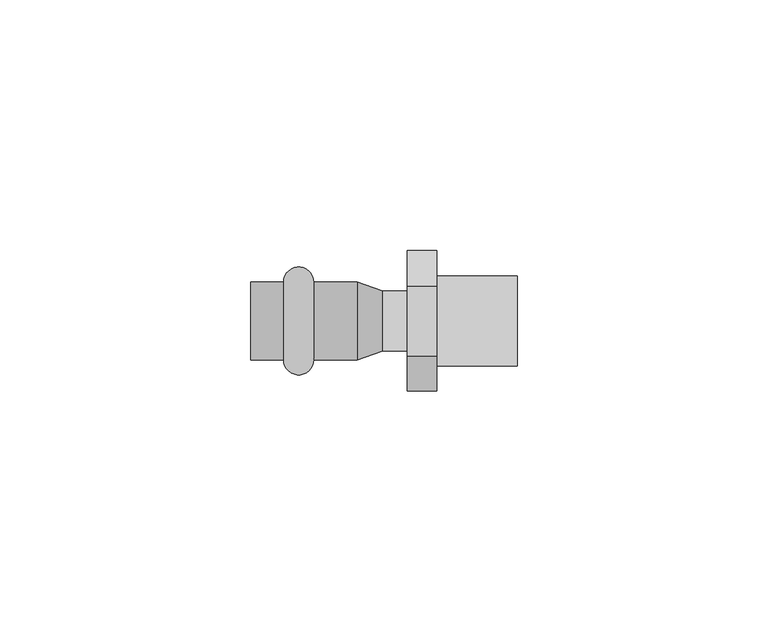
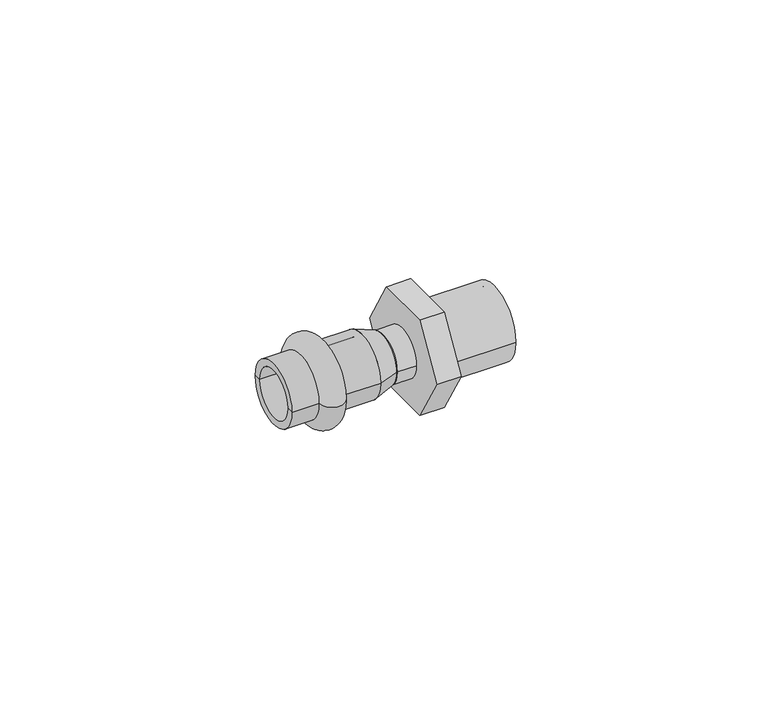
"""IFC4 building model written with IfcOpenShell, lengths in millimetres: pipe fitting geometry, VALTEC_VTi.901.I_Соединитель прямой с переходом на наружную резьбу_Нержавеющая сталь : VTi.901.I."""

from ifc_helpers import new_model, si_unit, point, frame, origin, origin_2d, place, context, project, spatial, polyline, circle_curve, ellipse_curve, trimmed, segment, composite_curve, outline, extrude, source, transform, mapped, element, save
from ifc_brep_helpers import plane_surface, cylinder_surface, revolved_surface, advanced_brep


def pipe_fitting_4a7d6b31(model_context):
    return source(origin(), model_context, "Body", "SolidModel", [
        advanced_brep(
        [(-27.55, -7.75, 0.0), (-27.55, 7.75, 0.0), (-21.55, 7.75, 0.0), (-21.55, -7.75, 0.0), (-34.05, -7.75, 0.0), (-34.05, 7.75, 0.0), (-34.05, -6.0, 0.0), (-34.05, 6.0, 0.0), (-12.85, -6.0, 0.0), (-12.85, 6.0, 0.0), (-12.85, -7.75, 0.0), (-12.85, 7.75, 0.0)],
        [
            (0, 1, circle_curve(frame((-27.55, 0.0, 0.0), z_axis=(1.0, 0.0, 0.0), x_axis=(0.0, 1.0, 0.0)), 7.75)),
            (1, 2, circle_curve(frame((-24.55, 7.75, 0.0), z_axis=(0.0, 0.0, -1.0), x_axis=(1.0, 0.0, 0.0)), 3.0)),
            (2, 3, circle_curve(frame((-21.55, 0.0, 0.0), z_axis=(-1.0, 0.0, 0.0), x_axis=(0.0, 1.0, 0.0)), 7.75)),
            (3, 0, circle_curve(frame((-24.55, -7.75, 0.0), z_axis=(0.0, 0.0, -1.0), x_axis=(1.0, 0.0, 0.0)), 3.0)),
            (1, 0, circle_curve(frame((-27.55, 0.0, 0.0), z_axis=(1.0, 0.0, 0.0), x_axis=(0.0, 1.0, 0.0)), 7.75)),
            (3, 2, circle_curve(frame((-21.55, 0.0, 0.0), z_axis=(-1.0, 0.0, 0.0), x_axis=(0.0, 1.0, 0.0)), 7.75)),
            (4, 5, circle_curve(frame((-34.05, 0.0, 0.0), z_axis=(1.0, 0.0, 0.0), x_axis=(0.0, 1.0, 0.0)), 7.75)),
            (5, 1),
            (0, 4),
            (5, 4, circle_curve(frame((-34.05, 0.0, 0.0), z_axis=(1.0, 0.0, 0.0), x_axis=(0.0, 1.0, 0.0)), 7.75)),
            (6, 7, circle_curve(frame((-34.05, 0.0, 0.0), z_axis=(1.0, 0.0, 0.0), x_axis=(0.0, 1.0, 0.0)), 6.0)),
            (7, 5),
            (4, 6),
            (7, 6, circle_curve(frame((-34.05, 0.0, 0.0), z_axis=(1.0, 0.0, 0.0), x_axis=(0.0, 1.0, 0.0)), 6.0)),
            (8, 9, circle_curve(frame((-12.85, 0.0, 0.0), z_axis=(1.0, 0.0, 0.0), x_axis=(0.0, 1.0, 0.0)), 6.0)),
            (9, 7),
            (6, 8),
            (9, 8, circle_curve(frame((-12.85, 0.0, 0.0), z_axis=(1.0, 0.0, 0.0), x_axis=(0.0, 1.0, 0.0)), 6.0)),
            (10, 11, circle_curve(frame((-12.85, 0.0, 0.0), z_axis=(1.0, 0.0, 0.0), x_axis=(0.0, 1.0, 0.0)), 7.75)),
            (11, 9),
            (8, 10),
            (11, 10, circle_curve(frame((-12.85, 0.0, 0.0), z_axis=(1.0, 0.0, 0.0), x_axis=(0.0, 1.0, 0.0)), 7.75)),
            (2, 11),
            (10, 3),
        ],
        [
            revolved_surface(trimmed(ellipse_curve(frame((-24.55, 7.75, 0.0), z_axis=(0.0, 0.0, 1.0), x_axis=(1.0, 0.0, 0.0)), 3.0, 3.0), [point((-21.55, 7.75, 0.0))], [point((-27.55, 7.75, 0.0))], True, "CARTESIAN"), (-37.5864426, 0.0, 0.0), (-1.0, 0.0, 0.0)),
            cylinder_surface(frame((-37.5864426, 0.0, 0.0), z_axis=(-1.0, 0.0, 0.0), x_axis=(0.0, 1.0, 0.0)), 7.75),
            plane_surface(frame((-34.05, 0.0, 0.0), z_axis=(-1.0, 0.0, 0.0), x_axis=(0.0, 1.0, 0.0))),
            revolved_surface(polyline([(-34.05, 6.0, 0.0), (-12.850000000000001, 6.0, 0.0)]), (-37.5864426, 0.0, 0.0), (-1.0, 0.0, 0.0)),
            plane_surface(frame((-12.85, 0.0, 0.0), z_axis=(1.0, 0.0, 0.0), x_axis=(0.0, 1.0, 0.0))),
        ],
        [
            (0, [[1, 2, 3, 4]]),
            (0, [[5, -4, 6, -2]]),
            (1, [[7, 8, -1, 9]]),
            (1, [[10, -9, -5, -8]]),
            (2, [[11, 12, -7, 13]]),
            (2, [[14, -13, -10, -12]]),
            (3, [[15, 16, -11, 17]]),
            (3, [[18, -17, -14, -16]]),
            (4, [[19, 20, -15, 21]]),
            (4, [[22, -21, -18, -20]]),
            (1, [[-3, 23, -19, 24]]),
            (1, [[-6, -24, -22, -23]]),
        ],
    ),
        extrude(outline(polyline([(-13.989197, 0.0), (-6.9945985, 12.115), (6.9945985, 12.115), (13.989197, 0.0), (6.9945985, -12.115), (-6.9945985, -12.115), (-13.989197, 0.0)])), frame((-2.95, 0.0, 0.0), z_axis=(1.0, 0.0, 0.0), x_axis=(0.0, 1.0, 0.0)), (0.0, 0.0, 1.0), 5.9),
        extrude(outline(composite_curve([segment(trimmed(circle_curve(origin_2d(), 6.0), [point((-6.0, 0.0))], [point((6.0, 0.0))], False, "CARTESIAN"), True, "CONTINUOUS"), segment(trimmed(circle_curve(origin_2d(), 6.0), [point((6.0, 0.0))], [point((-6.0, 0.0))], False, "CARTESIAN"), True, "CONTINUOUS")], self_intersect=False)), frame((-7.8183127, 0.0, 0.0), z_axis=(1.0, 0.0, 0.0), x_axis=(0.0, 1.0, 0.0)), (0.0, 0.0, 1.0), 4.8683127),
        advanced_brep(
        [(-12.85, -7.75, 0.0), (-12.85, 7.75, 0.0), (-7.8183127, -6.0, 0.0), (-7.8183127, 6.0, 0.0)],
        [
            (0, 1, circle_curve(frame((-12.85, 0.0, 0.0), z_axis=(-1.0, 0.0, 0.0), x_axis=(0.0, -1.0, 0.0)), 7.75)),
            (1, 0, circle_curve(frame((-12.85, 0.0, 0.0), z_axis=(-1.0, 0.0, 0.0), x_axis=(0.0, 1.0, 0.0)), 7.75)),
            (2, 3, circle_curve(frame((-7.8183127, 0.0, 0.0), z_axis=(1.0, 0.0, 0.0), x_axis=(0.0, 1.0, 0.0)), 6.0)),
            (3, 2, circle_curve(frame((-7.8183127, 0.0, 0.0), z_axis=(1.0, 0.0, 0.0), x_axis=(0.0, -1.0, 0.0)), 6.0)),
            (2, 0),
            (1, 3),
        ],
        [
            plane_surface(frame((-12.85, 0.0, 0.0), z_axis=(-1.0, 0.0, 0.0), x_axis=(0.0, 0.0, -1.0))),
            plane_surface(frame((-7.8183127, 0.0, 0.0), z_axis=(1.0, 0.0, 0.0), x_axis=(0.0, 0.0, -1.0))),
            revolved_surface(polyline([(-7.8183127, -6.000000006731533, 0.0), (-12.850000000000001, -7.75, 0.0)]), (9.4331867, 0.0, 0.0), (-1.0, 0.0, 0.0)),
            revolved_surface(polyline([(-7.8183127, 6.000000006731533, 0.0), (-12.850000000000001, 7.75, 0.0)]), (9.4331867, 0.0, 0.0), (-1.0, 0.0, 0.0)),
        ],
        [
            (0, [[1, 2]]),
            (1, [[3, 4]]),
            (2, [[-3, 5, -2, 6]]),
            (3, [[-4, -6, -1, -5]]),
        ],
    ),
        extrude(outline(composite_curve([segment(trimmed(circle_curve(origin_2d(), 9.0), [point((-9.0, 0.0))], [point((9.0, 0.0))], False, "CARTESIAN"), True, "CONTINUOUS"), segment(trimmed(circle_curve(origin_2d(), 9.0), [point((9.0, 0.0))], [point((-9.0, 0.0))], False, "CARTESIAN"), True, "CONTINUOUS")], self_intersect=False), holes=[composite_curve([segment(trimmed(circle_curve(origin_2d(), 7.5), [point((-7.5, 0.0))], [point((7.5, 0.0))], True, "CARTESIAN"), True, "CONTINUOUS"), segment(trimmed(circle_curve(origin_2d(), 7.5), [point((7.5, 0.0))], [point((-7.5, 0.0))], True, "CARTESIAN"), True, "CONTINUOUS")], self_intersect=False)]), frame((2.95, 0.0, 0.0), z_axis=(1.0, 0.0, 0.0), x_axis=(0.0, 1.0, 0.0)), (0.0, 0.0, 1.0), 16.0),
    ])


if __name__ == "__main__":
    model = new_model("IFC4")
    model_context = context("Model", 3, world=origin())
    ifc_project = project(units=[si_unit("LENGTHUNIT", "METRE", prefix="MILLI")], contexts=[model_context])
    site = spatial("IfcSite", under=ifc_project)
    building = spatial("IfcBuilding", under=site)
    placement = place(None, origin())
    pipe_fitting_shape = pipe_fitting_4a7d6b31(model_context)
    element("IfcPipeFitting", 1, ObjectType="VALTEC_VTi.901.I_Соединитель прямой с переходом на наружную резьбу_Нержавеющая сталь : VTi.901.I", at=placement, inside=building, context=model_context, shape_type="MappedRepresentation", body=[
        mapped(pipe_fitting_shape, transform((0.0, 0.0, 0.0), x_axis=(1.0, 0.0, 0.0), y_axis=(0.0, 1.0, 0.0), z_axis=(0.0, 0.0, 1.0))),
    ])
    save(model, "model.ifc")
